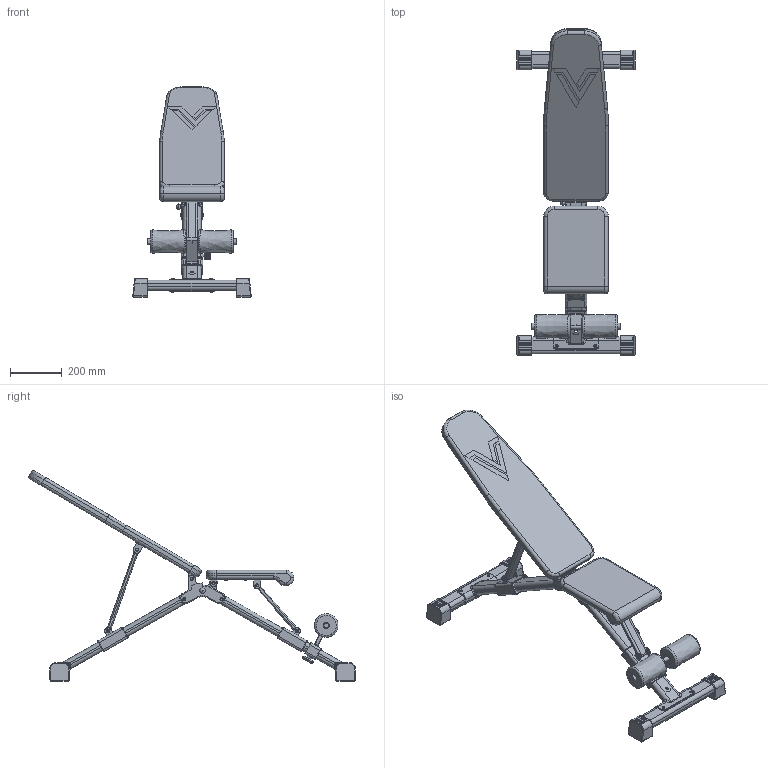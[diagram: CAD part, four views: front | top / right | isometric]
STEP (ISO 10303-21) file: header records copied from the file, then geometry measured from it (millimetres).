
FILE_DESCRIPTION(('HOOPS Exchange Step'),'2;1');
FILE_NAME('C:\Users\Administrador\Desktop\Jobs\Vibranium\equip3\Final\STEP\Vibranium Bench.stp','2025-02-21T17:04:26-03:00',('Administrador'),('Unknown organisation'),'HOOPS Exchange 2024.2','HOOPS Exchange','Unknown authorisation');
FILE_SCHEMA( ('AP203_CONFIGURATION_CONTROLLED_3D_DESIGN_OF_MECHANICAL_PARTS_AND_ASSEMBLIES_MIM_LF') );
Length unit declared in the file: millimetre
Products named in the file (1): root
Bounding box: 459.43 x 1265.38 x 816.01 mm (x, y, z)
Volume: 12764911.3 mm3; surface area: 1600755.2 mm2
Topology: 71 solids, 79 shells, 1302 faces, 3168 edges, 1966 vertices
Faces by surface type: cylinder 443, plane 338, bspline 261, torus 214, cone 23, extrusion 23
Full cylindrical faces by diameter (mm): 3.608 x1, 9.209 x1, 9.693 x4, 11.307 x8, 11.681 x2, 11.731 x1, 12.474 x39, 13.318 x4, 20.109 x1, 23.91 x2, 26.864 x1, 31.49 x2, 45.693 x1
Entity records: 129639 total; most frequent: CARTESIAN_POINT 100759, ORIENTED_EDGE 6166, DIRECTION 5676, EDGE_CURVE 3116, AXIS2_PLACEMENT_3D 2287, VERTEX_POINT 1966, EDGE_LOOP 1349, FACE_BOUND 1349
